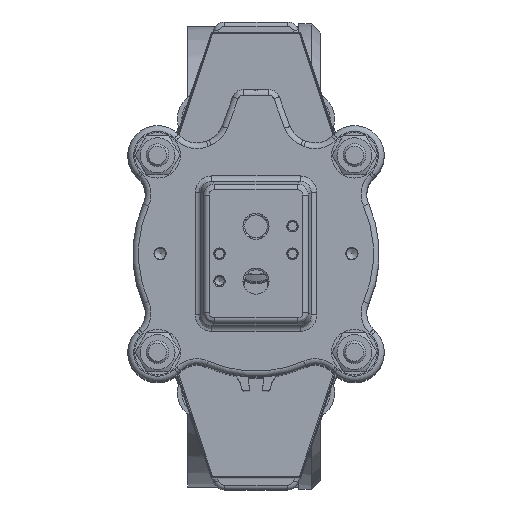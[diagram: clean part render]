
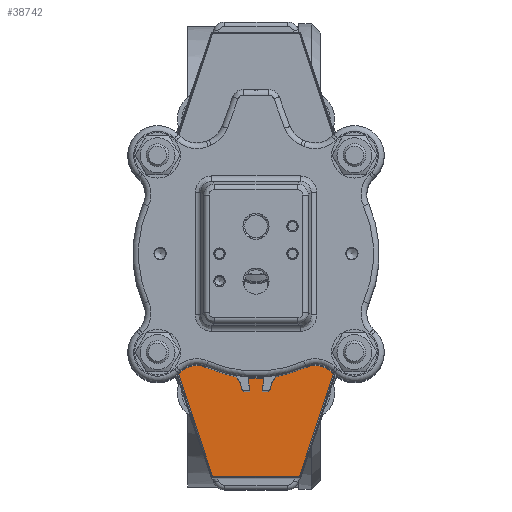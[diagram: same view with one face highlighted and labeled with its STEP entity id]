
A CAD part, top view. The second image highlights one B-rep face of the part: STEP entity #38742.
In plain terms, the highlighted planar face has unit normal (0, 0, 1).
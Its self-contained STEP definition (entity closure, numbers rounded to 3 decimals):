
#927=PLANE('',#42008);
#3738=LINE('',#63647,#5783);
#3742=LINE('',#63656,#5787);
#3745=LINE('',#63662,#5790);
#3750=LINE('',#63671,#5795);
#3760=LINE('',#63700,#5805);
#3764=LINE('',#63711,#5809);
#5783=VECTOR('',#48999,1.);
#5787=VECTOR('',#49005,1.);
#5790=VECTOR('',#49010,1.);
#5795=VECTOR('',#49017,1.);
#5805=VECTOR('',#49057,1.);
#5809=VECTOR('',#49073,1.);
#8461=FACE_OUTER_BOUND('',#10960,.T.);
#10960=EDGE_LOOP('',(#29100,#29101,#29102,#29103,#29104,#29105));
#17088=VERTEX_POINT('',#63644);
#17089=VERTEX_POINT('',#63646);
#17092=VERTEX_POINT('',#63653);
#17093=VERTEX_POINT('',#63655);
#17095=VERTEX_POINT('',#63661);
#17098=VERTEX_POINT('',#63669);
#21503=EDGE_CURVE('',#17088,#17089,#3738,.T.);
#21507=EDGE_CURVE('',#17092,#17093,#3742,.T.);
#21510=EDGE_CURVE('',#17095,#17093,#3745,.T.);
#21515=EDGE_CURVE('',#17098,#17088,#3750,.T.);
#21532=EDGE_CURVE('',#17092,#17089,#3760,.T.);
#21537=EDGE_CURVE('',#17098,#17095,#3764,.T.);
#29100=ORIENTED_EDGE('',*,*,#21503,.F.);
#29101=ORIENTED_EDGE('',*,*,#21515,.F.);
#29102=ORIENTED_EDGE('',*,*,#21537,.T.);
#29103=ORIENTED_EDGE('',*,*,#21510,.T.);
#29104=ORIENTED_EDGE('',*,*,#21507,.F.);
#29105=ORIENTED_EDGE('',*,*,#21532,.T.);
#38742=ADVANCED_FACE('',(#8461),#927,.F.);
#42008=AXIS2_PLACEMENT_3D('',#63710,#49071,#49072);
#48999=DIRECTION('',(-0.316,-0.949,0.));
#49005=DIRECTION('',(-0.316,0.949,0.));
#49010=DIRECTION('',(0.,-1.,0.));
#49017=DIRECTION('',(0.,-1.,0.));
#49057=DIRECTION('',(1.,0.,0.));
#49071=DIRECTION('center_axis',(0.,0.,
-1.));
#49072=DIRECTION('ref_axis',(1.,0.,0.));
#49073=DIRECTION('',(-1.,0.,0.));
#63644=CARTESIAN_POINT('',(36.5,-44.35,419.75));
#63646=CARTESIAN_POINT('',(19.,-96.85,419.75));
#63647=CARTESIAN_POINT('',(15.2,-108.25,419.75));
#63653=CARTESIAN_POINT('',(-19.,-96.85,419.75));
#63655=CARTESIAN_POINT('',(-36.5,-44.35,419.75));
#63656=CARTESIAN_POINT('',(-19.,-96.85,419.75));
#63661=CARTESIAN_POINT('',(-36.5,-39.4,419.75));
#63662=CARTESIAN_POINT('',(-36.5,-39.4,419.75));
#63669=CARTESIAN_POINT('',(36.5,-39.4,419.75));
#63671=CARTESIAN_POINT('',(36.5,-39.4,419.75));
#63700=CARTESIAN_POINT('',(-19.,-96.85,419.75));
#63710=CARTESIAN_POINT('Origin',(-19.,-96.85,419.75));
#63711=CARTESIAN_POINT('',(19.,-39.4,419.75));
